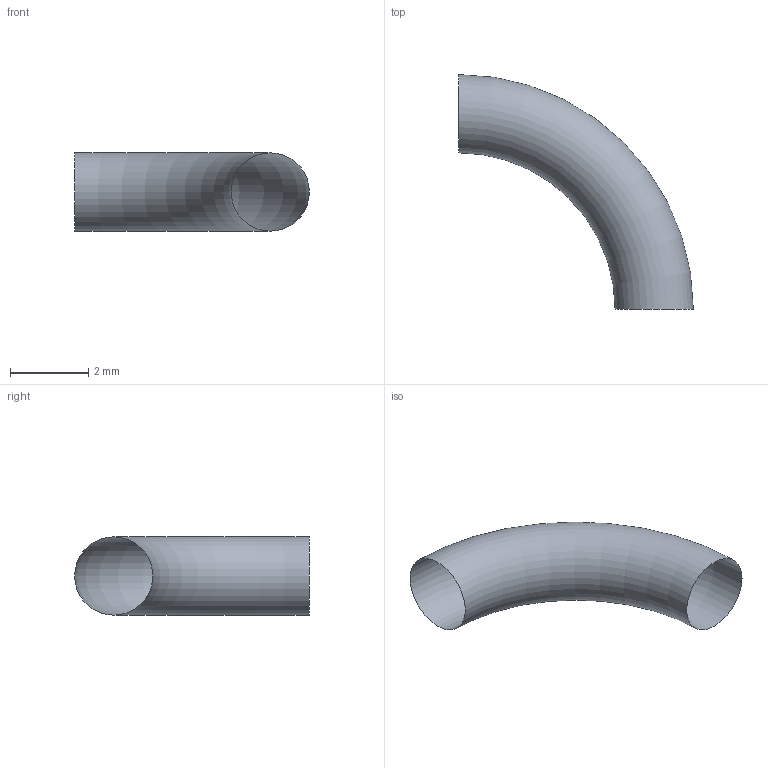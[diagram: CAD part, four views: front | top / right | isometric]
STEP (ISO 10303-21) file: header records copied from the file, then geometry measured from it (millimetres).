
FILE_DESCRIPTION(('BRL-CAD AP203 implicit toroidal band fixture'),'2;1');
FILE_NAME('ap203_toroidal_band.stp','2026-07-20T00:00:00',('BRL-CAD'),('BRL-CAD'),'','','');
FILE_SCHEMA(('CONFIG_CONTROL_DESIGN'));
Length unit declared in the file: millimetre
Products named in the file (1): toroidal_band
Bounding box: 6 x 6 x 2 mm (x, y, z)
Surface area: 49.3 mm2 (no closed solid volume)
Topology: 0 solids, 1 shells, 1 faces, 3 edges, 2 vertices
Faces by surface type: torus 1
Entity records: 42 total; most frequent: CARTESIAN_POINT 5, DIRECTION 4, AXIS2_PLACEMENT_3D 3, VERTEX_POINT 2, CIRCLE 2, EDGE_CURVE 2, ORIENTED_EDGE 2, EDGE_LOOP 2
